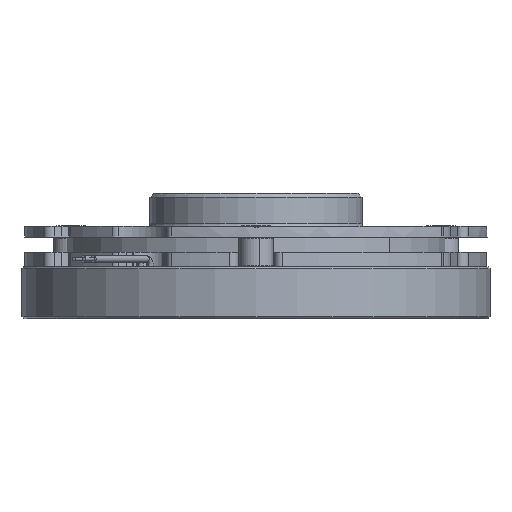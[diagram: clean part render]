
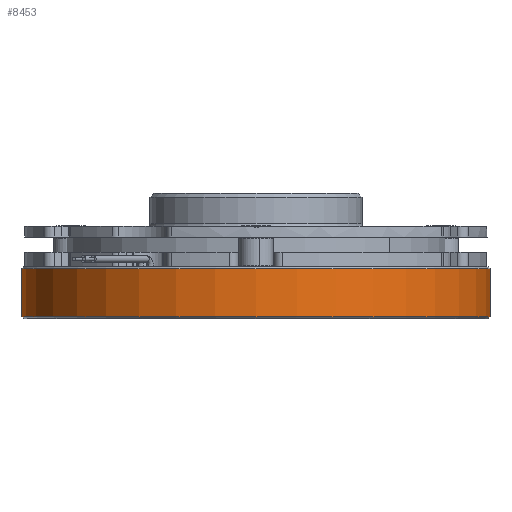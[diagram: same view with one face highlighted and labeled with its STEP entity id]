
A CAD part, front view. The second image highlights one B-rep face of the part: STEP entity #8453.
In plain terms, the highlighted cylindrical face has radius 61.75 mm (diameter 123.5 mm), a partial arc.
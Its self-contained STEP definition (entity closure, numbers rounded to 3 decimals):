
#254 = EDGE_CURVE ( 'NONE', #11787, #11786, #6402, .T. ) ;
#255 = EDGE_CURVE ( 'NONE', #12755, #12754, #6401, .T. ) ;
#1757 = CARTESIAN_POINT ( 'NONE',  ( 61.75, 0., 0.5 ) ) ;
#1758 = CARTESIAN_POINT ( 'NONE',  ( -61.75, 0., 0.5 ) ) ;
#2669 = CARTESIAN_POINT ( 'NONE',  ( 0., 0., 13.2 ) ) ;
#2670 = DIRECTION ( 'NONE',  ( 0., 0., -1. ) ) ;
#2671 = DIRECTION ( 'NONE',  ( 1., 0., 0. ) ) ;
#2673 = CARTESIAN_POINT ( 'NONE',  ( 0., 0., 0.5 ) ) ;
#2674 = DIRECTION ( 'NONE',  ( 0., 0., 1. ) ) ;
#2675 = DIRECTION ( 'NONE',  ( 1., 0., 0. ) ) ;
#4028 = DIRECTION ( 'NONE',  ( 0., 0., -1. ) ) ;
#4039 = CARTESIAN_POINT ( 'NONE',  ( 0., 0., 13.7 ) ) ;
#4047 = DIRECTION ( 'NONE',  ( -1., 0., 0. ) ) ;
#4449 = AXIS2_PLACEMENT_3D ( 'NONE', #2669, #2670, #2671 ) ;
#4450 = AXIS2_PLACEMENT_3D ( 'NONE', #2673, #2674, #2675 ) ;
#6401 = CIRCLE ( 'NONE', #4450, 61.75 ) ;
#6402 = CIRCLE ( 'NONE', #4449, 61.75 ) ;
#7457 = LINE ( 'NONE', #9182, #7464 ) ;
#7461 = LINE ( 'NONE', #9181, #7466 ) ;
#7464 = VECTOR ( 'NONE', #9186, 1000. ) ;
#7466 = VECTOR ( 'NONE', #9188, 1000. ) ;
#7899 = CARTESIAN_POINT ( 'NONE',  ( -61.75, 0., 13.2 ) ) ;
#7900 = CARTESIAN_POINT ( 'NONE',  ( 61.75, 0., 13.2 ) ) ;
#8453 = ADVANCED_FACE ( 'NONE', ( #12812 ), #12820, .T. ) ;
#9181 = CARTESIAN_POINT ( 'NONE',  ( -61.75, 0., 13.7 ) ) ;
#9182 = CARTESIAN_POINT ( 'NONE',  ( 61.75, 0., 13.7 ) ) ;
#9186 = DIRECTION ( 'NONE',  ( 0., 0., -1. ) ) ;
#9188 = DIRECTION ( 'NONE',  ( 0., 0., -1. ) ) ;
#11413 = ORIENTED_EDGE ( 'NONE', *, *, #11596, .F. ) ;
#11596 = EDGE_CURVE ( 'NONE', #11787, #12754, #7457, .T. ) ;
#11597 = EDGE_CURVE ( 'NONE', #11786, #12755, #7461, .T. ) ;
#11786 = VERTEX_POINT ( 'NONE', #7899 ) ;
#11787 = VERTEX_POINT ( 'NONE', #7900 ) ;
#12140 = ORIENTED_EDGE ( 'NONE', *, *, #254, .T. ) ;
#12141 = ORIENTED_EDGE ( 'NONE', *, *, #11597, .T. ) ;
#12142 = ORIENTED_EDGE ( 'NONE', *, *, #255, .T. ) ;
#12754 = VERTEX_POINT ( 'NONE', #1757 ) ;
#12755 = VERTEX_POINT ( 'NONE', #1758 ) ;
#12812 = FACE_OUTER_BOUND ( 'NONE', #13318, .T. ) ;
#12820 = CYLINDRICAL_SURFACE ( 'NONE', #13731, 61.75 ) ;
#13318 = EDGE_LOOP ( 'NONE', ( #11413, #12140, #12141, #12142 ) ) ;
#13731 = AXIS2_PLACEMENT_3D ( 'NONE', #4039, #4028, #4047 ) ;
